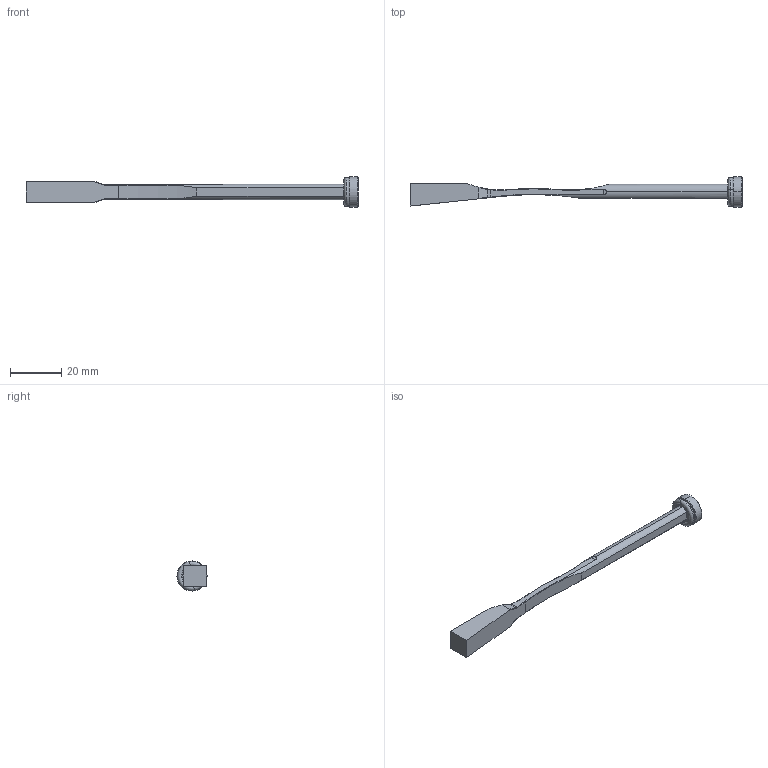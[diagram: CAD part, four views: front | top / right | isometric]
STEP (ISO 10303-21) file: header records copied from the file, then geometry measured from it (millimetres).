
FILE_DESCRIPTION (( 'STEP AP214' ), '1' );
FILE_NAME ('PW060822-Tancada.STEP', '2020-02-10T08:40:32', ( '' ), ( '' ), 'SwSTEP 2.0', 'SolidWorks 2018', '' );
FILE_SCHEMA (( 'AUTOMOTIVE_DESIGN' ));
Length unit declared in the file: millimetre
Products named in the file (5): 3JT7.5X2X11.5; 1DIN7991416_DIN 7991 - M4 x 16 --- 16C; 9PW060822 TANCADA; PW060822-Tancada; 9FP1205M4
Assembly tree (4 placements, depth 2):
  PW060822-Tancada
    9PW060822 TANCADA
    9FP1205M4
    1DIN7991416_DIN 7991 - M4 x 16 --- 16C
    3JT7.5X2X11.5
Bounding box: 130 x 11.8 x 11.8 mm (x, y, z)
Volume: 4107.3 mm3; surface area: 3989.1 mm2
Topology: 4 solids, 4 shells, 95 faces, 216 edges, 126 vertices
Faces by surface type: plane 32, cylinder 23, cone 16, torus 14, bspline 10
Entity records: 3026 total; most frequent: CARTESIAN_POINT 697, DIRECTION 428, ORIENTED_EDGE 424, EDGE_CURVE 212, AXIS2_PLACEMENT_3D 169, VERTEX_POINT 126, EDGE_LOOP 100, ADVANCED_FACE 95
